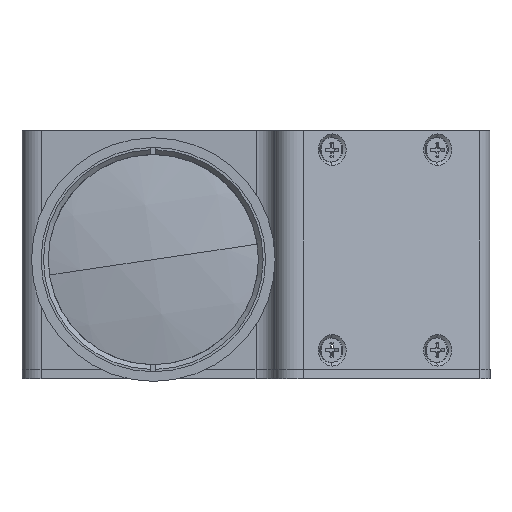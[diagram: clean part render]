
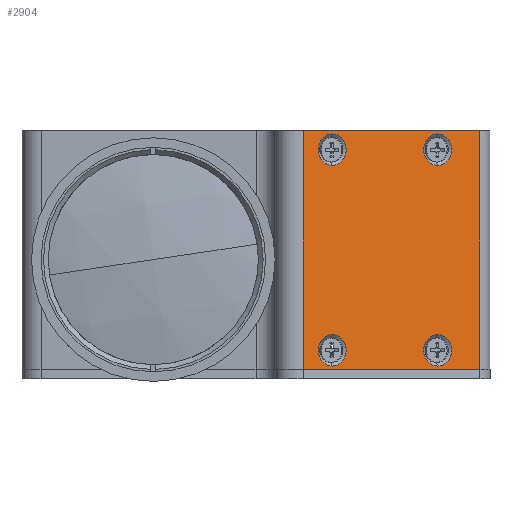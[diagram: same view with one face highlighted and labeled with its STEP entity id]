
A CAD part, left-side view. The second image highlights one B-rep face of the part: STEP entity #2904.
In plain terms, the highlighted planar face has unit normal (-0.883, -0.469, 0).
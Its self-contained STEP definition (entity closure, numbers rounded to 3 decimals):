
#181 = DIRECTION ( 'NONE',  ( 0., 0., 1. ) ) ;
#184 = VERTEX_POINT ( 'NONE', #2308 ) ;
#191 = VECTOR ( 'NONE', #14347, 1000. ) ;
#194 = AXIS2_PLACEMENT_3D ( 'NONE', #8206, #1285, #9353 ) ;
#319 = CARTESIAN_POINT ( 'NONE',  ( 85.753, -59.548, -15.7 ) ) ;
#379 = CIRCLE ( 'NONE', #3398, 3.3 ) ;
#399 = AXIS2_PLACEMENT_3D ( 'NONE', #11449, #4573, #12575 ) ;
#607 = DIRECTION ( 'NONE',  ( -0.883, -0.469, 0. ) ) ;
#734 = ORIENTED_EDGE ( 'NONE', *, *, #6493, .F. ) ;
#871 = CARTESIAN_POINT ( 'NONE',  ( 85.753, -59.548, -19. ) ) ;
#877 = CARTESIAN_POINT ( 'NONE',  ( 85.753, -59.548, -22.3 ) ) ;
#880 = FACE_BOUND ( 'NONE', #14263, .T. ) ;
#957 = CARTESIAN_POINT ( 'NONE',  ( 85.753, -59.548, 19.7 ) ) ;
#961 = EDGE_CURVE ( 'NONE', #14759, #10213, #12968, .T. ) ;
#1003 = CARTESIAN_POINT ( 'NONE',  ( 90.448, -68.378, -23. ) ) ;
#1064 = ORIENTED_EDGE ( 'NONE', *, *, #961, .F. ) ;
#1072 = CARTESIAN_POINT ( 'NONE',  ( 74.016, -37.475, 26.3 ) ) ;
#1155 = LINE ( 'NONE', #13629, #10035 ) ;
#1243 = AXIS2_PLACEMENT_3D ( 'NONE', #13456, #6575, #14598 ) ;
#1285 = DIRECTION ( 'NONE',  ( -0.883, -0.469, 0. ) ) ;
#1290 = EDGE_CURVE ( 'NONE', #11070, #9898, #12496, .T. ) ;
#1390 = AXIS2_PLACEMENT_3D ( 'NONE', #10306, #3423, #11448 ) ;
#1418 = EDGE_CURVE ( 'NONE', #4064, #184, #8022, .T. ) ;
#1444 = DIRECTION ( 'NONE',  ( -0.883, -0.469, 0. ) ) ;
#1696 = VERTEX_POINT ( 'NONE', #4276 ) ;
#1701 = EDGE_CURVE ( 'NONE', #3028, #5851, #11789, .T. ) ;
#1750 = LINE ( 'NONE', #8542, #4131 ) ;
#1872 = EDGE_LOOP ( 'NONE', ( #10525, #1064 ) ) ;
#2124 = DIRECTION ( 'NONE',  ( 0., 0., 1. ) ) ;
#2284 = EDGE_CURVE ( 'NONE', #1696, #14883, #13171, .T. ) ;
#2308 = CARTESIAN_POINT ( 'NONE',  ( 74.016, -37.475, -15.7 ) ) ;
#2628 = AXIS2_PLACEMENT_3D ( 'NONE', #871, #8964, #2124 ) ;
#2637 = EDGE_LOOP ( 'NONE', ( #11843, #4267, #7083, #4134 ) ) ;
#2904 = ADVANCED_FACE ( 'NONE', ( #880, #6692, #7069, #9767, #12815 ), #6044, .T. ) ;
#3028 = VERTEX_POINT ( 'NONE', #5116 ) ;
#3317 = VERTEX_POINT ( 'NONE', #1003 ) ;
#3398 = AXIS2_PLACEMENT_3D ( 'NONE', #7585, #607, #8732 ) ;
#3415 = LINE ( 'NONE', #12047, #191 ) ;
#3423 = DIRECTION ( 'NONE',  ( -0.883, -0.469, 0. ) ) ;
#4064 = VERTEX_POINT ( 'NONE', #9703 ) ;
#4131 = VECTOR ( 'NONE', #5101, 1000. ) ;
#4134 = ORIENTED_EDGE ( 'NONE', *, *, #2284, .T. ) ;
#4267 = ORIENTED_EDGE ( 'NONE', *, *, #5260, .T. ) ;
#4276 = CARTESIAN_POINT ( 'NONE',  ( 70.758, -31.348, 27. ) ) ;
#4530 = DIRECTION ( 'NONE',  ( -0.469, 0.883, 0. ) ) ;
#4539 = AXIS2_PLACEMENT_3D ( 'NONE', #14054, #7200, #181 ) ;
#4573 = DIRECTION ( 'NONE',  ( -0.883, -0.469, 0. ) ) ;
#4607 = CARTESIAN_POINT ( 'NONE',  ( 70.758, -31.348, -23. ) ) ;
#4864 = DIRECTION ( 'NONE',  ( -0.883, -0.469, 0. ) ) ;
#5101 = DIRECTION ( 'NONE',  ( 0., 0., 1. ) ) ;
#5116 = CARTESIAN_POINT ( 'NONE',  ( 74.016, -37.475, 19.7 ) ) ;
#5130 = ORIENTED_EDGE ( 'NONE', *, *, #1701, .F. ) ;
#5260 = EDGE_CURVE ( 'NONE', #3317, #6414, #1750, .T. ) ;
#5300 = EDGE_CURVE ( 'NONE', #1696, #6414, #3415, .T. ) ;
#5813 = EDGE_CURVE ( 'NONE', #3317, #14883, #1155, .T. ) ;
#5851 = VERTEX_POINT ( 'NONE', #1072 ) ;
#6044 = PLANE ( 'NONE',  #7424 ) ;
#6318 = EDGE_CURVE ( 'NONE', #5851, #3028, #6409, .T. ) ;
#6409 = CIRCLE ( 'NONE', #4539, 3.3 ) ;
#6414 = VERTEX_POINT ( 'NONE', #9663 ) ;
#6493 = EDGE_CURVE ( 'NONE', #184, #4064, #379, .T. ) ;
#6575 = DIRECTION ( 'NONE',  ( -0.883, -0.469, 0. ) ) ;
#6610 = EDGE_CURVE ( 'NONE', #10213, #14759, #13950, .T. ) ;
#6692 = FACE_BOUND ( 'NONE', #1872, .T. ) ;
#6707 = EDGE_LOOP ( 'NONE', ( #734, #7323 ) ) ;
#6805 = EDGE_CURVE ( 'NONE', #9898, #11070, #13763, .T. ) ;
#7069 = FACE_BOUND ( 'NONE', #6707, .T. ) ;
#7083 = ORIENTED_EDGE ( 'NONE', *, *, #5300, .F. ) ;
#7200 = DIRECTION ( 'NONE',  ( -0.883, -0.469, 0. ) ) ;
#7323 = ORIENTED_EDGE ( 'NONE', *, *, #1418, .F. ) ;
#7424 = AXIS2_PLACEMENT_3D ( 'NONE', #8355, #1444, #9520 ) ;
#7585 = CARTESIAN_POINT ( 'NONE',  ( 74.016, -37.475, -19. ) ) ;
#7722 = CARTESIAN_POINT ( 'NONE',  ( 85.753, -59.548, 26.3 ) ) ;
#8022 = CIRCLE ( 'NONE', #194, 3.3 ) ;
#8184 = ORIENTED_EDGE ( 'NONE', *, *, #6318, .F. ) ;
#8206 = CARTESIAN_POINT ( 'NONE',  ( 74.016, -37.475, -19. ) ) ;
#8355 = CARTESIAN_POINT ( 'NONE',  ( 80.661, -49.971, 2. ) ) ;
#8542 = CARTESIAN_POINT ( 'NONE',  ( 90.448, -68.378, 2. ) ) ;
#8732 = DIRECTION ( 'NONE',  ( 0., 0., 1. ) ) ;
#8941 = CARTESIAN_POINT ( 'NONE',  ( 70.758, -31.348, 2. ) ) ;
#8964 = DIRECTION ( 'NONE',  ( -0.883, -0.469, 0. ) ) ;
#9353 = DIRECTION ( 'NONE',  ( 0., 0., 1. ) ) ;
#9520 = DIRECTION ( 'NONE',  ( 0., 0., 1. ) ) ;
#9663 = CARTESIAN_POINT ( 'NONE',  ( 90.448, -68.378, 27. ) ) ;
#9703 = CARTESIAN_POINT ( 'NONE',  ( 74.016, -37.475, -22.3 ) ) ;
#9767 = FACE_BOUND ( 'NONE', #13371, .T. ) ;
#9898 = VERTEX_POINT ( 'NONE', #7722 ) ;
#10035 = VECTOR ( 'NONE', #4530, 1000. ) ;
#10147 = VECTOR ( 'NONE', #11292, 1000. ) ;
#10213 = VERTEX_POINT ( 'NONE', #319 ) ;
#10306 = CARTESIAN_POINT ( 'NONE',  ( 85.753, -59.548, 23. ) ) ;
#10525 = ORIENTED_EDGE ( 'NONE', *, *, #6610, .F. ) ;
#11070 = VERTEX_POINT ( 'NONE', #957 ) ;
#11292 = DIRECTION ( 'NONE',  ( 0., 0., -1. ) ) ;
#11448 = DIRECTION ( 'NONE',  ( 0., 0., 1. ) ) ;
#11449 = CARTESIAN_POINT ( 'NONE',  ( 85.753, -59.548, 23. ) ) ;
#11554 = ORIENTED_EDGE ( 'NONE', *, *, #1290, .F. ) ;
#11663 = ORIENTED_EDGE ( 'NONE', *, *, #6805, .F. ) ;
#11718 = CARTESIAN_POINT ( 'NONE',  ( 74.016, -37.475, 23. ) ) ;
#11789 = CIRCLE ( 'NONE', #13799, 3.3 ) ;
#11843 = ORIENTED_EDGE ( 'NONE', *, *, #5813, .F. ) ;
#12047 = CARTESIAN_POINT ( 'NONE',  ( 93.689, -74.473, 27. ) ) ;
#12496 = CIRCLE ( 'NONE', #399, 3.3 ) ;
#12575 = DIRECTION ( 'NONE',  ( 0., 0., 1. ) ) ;
#12815 = FACE_OUTER_BOUND ( 'NONE', #2637, .T. ) ;
#12864 = DIRECTION ( 'NONE',  ( 0., 0., 1. ) ) ;
#12968 = CIRCLE ( 'NONE', #1243, 3.3 ) ;
#13171 = LINE ( 'NONE', #8941, #10147 ) ;
#13371 = EDGE_LOOP ( 'NONE', ( #8184, #5130 ) ) ;
#13456 = CARTESIAN_POINT ( 'NONE',  ( 85.753, -59.548, -19. ) ) ;
#13629 = CARTESIAN_POINT ( 'NONE',  ( 93.689, -74.473, -23. ) ) ;
#13763 = CIRCLE ( 'NONE', #1390, 3.3 ) ;
#13799 = AXIS2_PLACEMENT_3D ( 'NONE', #11718, #4864, #12864 ) ;
#13950 = CIRCLE ( 'NONE', #2628, 3.3 ) ;
#14054 = CARTESIAN_POINT ( 'NONE',  ( 74.016, -37.475, 23. ) ) ;
#14263 = EDGE_LOOP ( 'NONE', ( #11663, #11554 ) ) ;
#14347 = DIRECTION ( 'NONE',  ( 0.469, -0.883, 0. ) ) ;
#14598 = DIRECTION ( 'NONE',  ( 0., 0., 1. ) ) ;
#14759 = VERTEX_POINT ( 'NONE', #877 ) ;
#14883 = VERTEX_POINT ( 'NONE', #4607 ) ;
